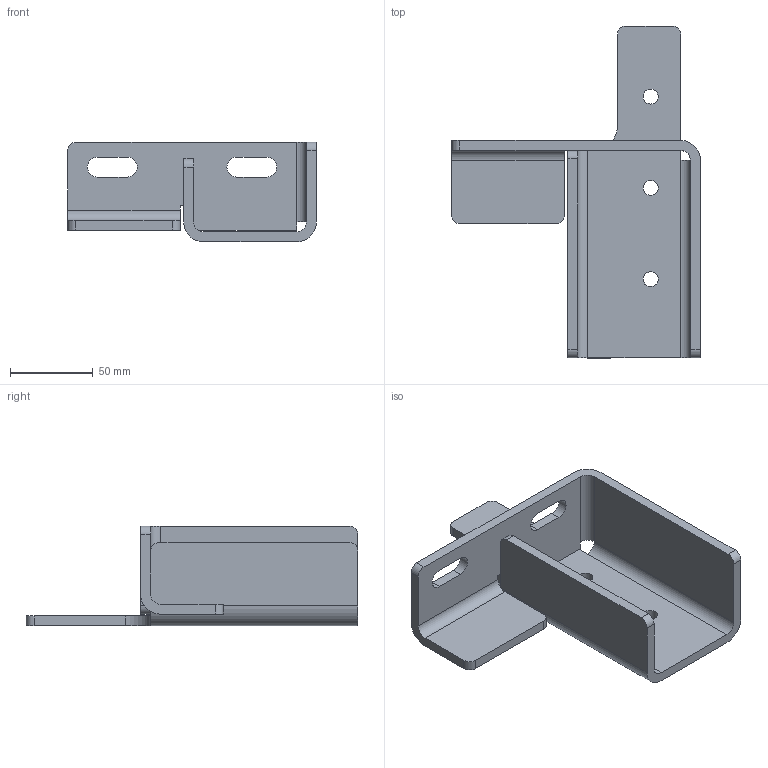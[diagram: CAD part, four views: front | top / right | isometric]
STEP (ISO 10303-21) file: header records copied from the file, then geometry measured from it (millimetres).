
FILE_DESCRIPTION((''),'2;1');
FILE_NAME('C:\Dokumente und Einstellungen\andreas\Desktop\halter.stp','2009-02-20T20:45:29',('andreas'),(''),'Autodesk Inventor 2009','Autodesk Inventor 2009','');
FILE_SCHEMA(('AUTOMOTIVE_DESIGN { 1 0 10303 214 1 1 1 1 }'));
Length unit declared in the file: millimetre
Products named in the file (1): halter
Bounding box: 150 x 200 x 60 mm (x, y, z)
Volume: 201232.9 mm3; surface area: 75307 mm2
Topology: 1 solids, 1 shells, 56 faces, 154 edges, 100 vertices
Faces by surface type: plane 31, cylinder 25
Full cylindrical faces by diameter (mm): 9 x3
Entity records: 1815 total; most frequent: DIRECTION 315, CARTESIAN_POINT 308, ORIENTED_EDGE 302, EDGE_CURVE 151, AXIS2_PLACEMENT_3D 107, VECTOR 101, LINE 101, VERTEX_POINT 100
